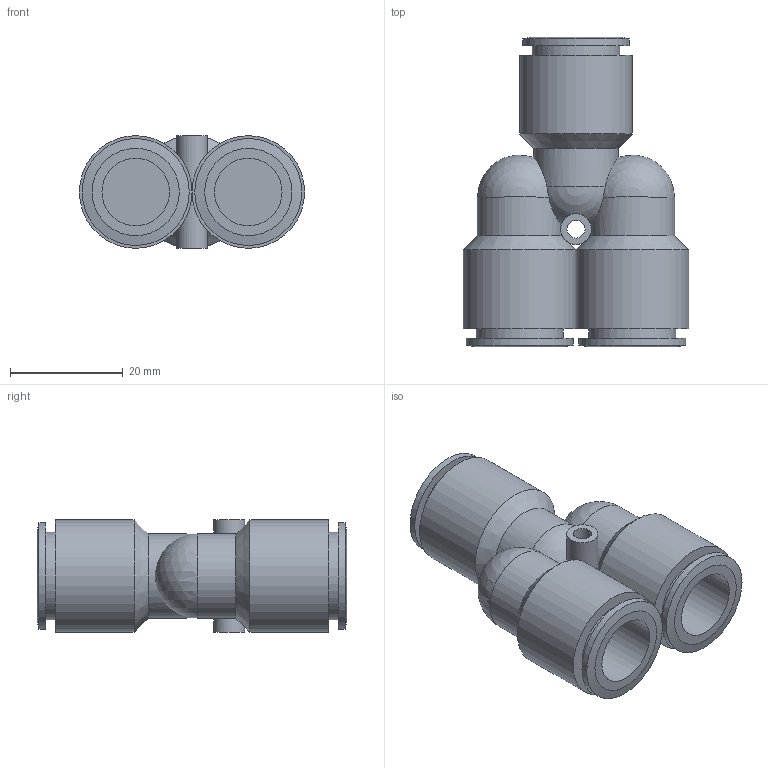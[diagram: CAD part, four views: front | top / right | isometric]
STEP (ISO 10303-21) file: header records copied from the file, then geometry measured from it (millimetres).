
FILE_DESCRIPTION((''),'2;1');
FILE_NAME('C:\Documents and Settings\rivolro1\Documenti\copia di Raccordi\PLASTICA\T23XXXX\T231200.stp','2007-11-02T14:44:59',('Rivolro1'),(''),'Autodesk Inventor 2008','Autodesk Inventor 2008','');
FILE_SCHEMA(('AUTOMOTIVE_DESIGN { 1 0 10303 214 1 1 1 1 }'));
Length unit declared in the file: millimetre
Products named in the file (1): T231200
Bounding box: 40 x 55 x 20 mm (x, y, z)
Volume: 17345.4 mm3; surface area: 9060.7 mm2
Topology: 1 solids, 1 shells, 41 faces, 99 edges, 60 vertices
Faces by surface type: cylinder 16, plane 14, cone 6, sphere 4, bspline 1
Full cylindrical faces by diameter (mm): 5.5 x1, 12 x3, 15 x3, 15.5 x3, 19 x3, 20 x3
Entity records: 1401 total; most frequent: CARTESIAN_POINT 533, DIRECTION 180, ORIENTED_EDGE 124, AXIS2_PLACEMENT_3D 89, EDGE_LOOP 78, EDGE_CURVE 62, VERTEX_POINT 52, CIRCLE 48
